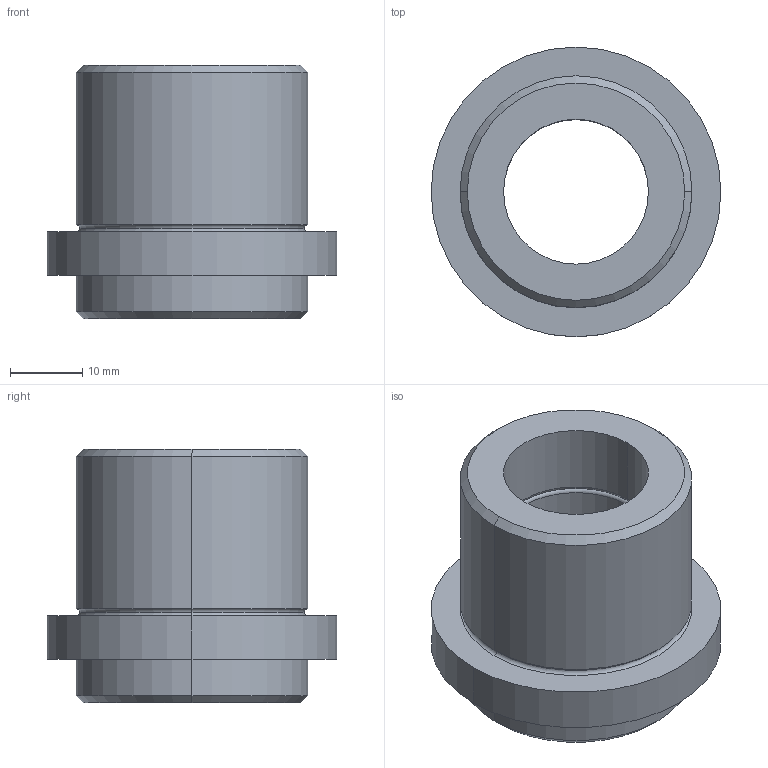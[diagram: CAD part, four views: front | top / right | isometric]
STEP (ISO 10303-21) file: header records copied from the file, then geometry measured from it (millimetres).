
FILE_DESCRIPTION (( 'STEP AP214' ), '1' );
FILE_NAME ('Casquillo SB500-20-35.STEP', '2018-11-26T12:39:52', ( '' ), ( '' ), 'SwSTEP 2.0', 'SolidWorks 2018', '' );
FILE_SCHEMA (( 'AUTOMOTIVE_DESIGN' ));
Length unit declared in the file: millimetre
Products named in the file (1): Casquillo SB500-20-35
Bounding box: 40 x 40 x 35 mm (x, y, z)
Volume: 19716.4 mm3; surface area: 7762.6 mm2
Topology: 1 solids, 1 shells, 32 faces, 64 edges, 36 vertices
Faces by surface type: torus 12, cylinder 12, cone 4, plane 4
Entity records: 874 total; most frequent: DIRECTION 178, CARTESIAN_POINT 133, ORIENTED_EDGE 128, AXIS2_PLACEMENT_3D 81, EDGE_CURVE 64, CIRCLE 48, EDGE_LOOP 36, VERTEX_POINT 36
